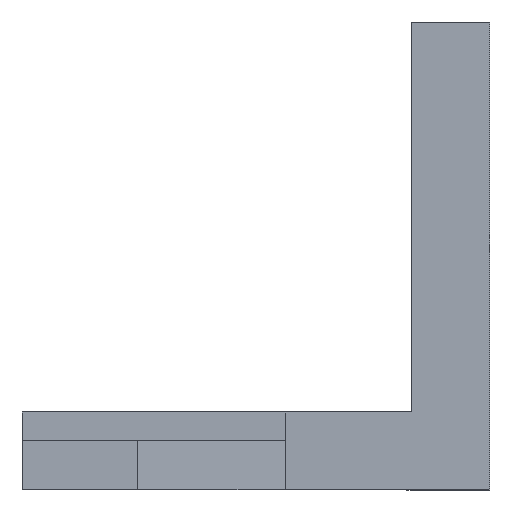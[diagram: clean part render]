
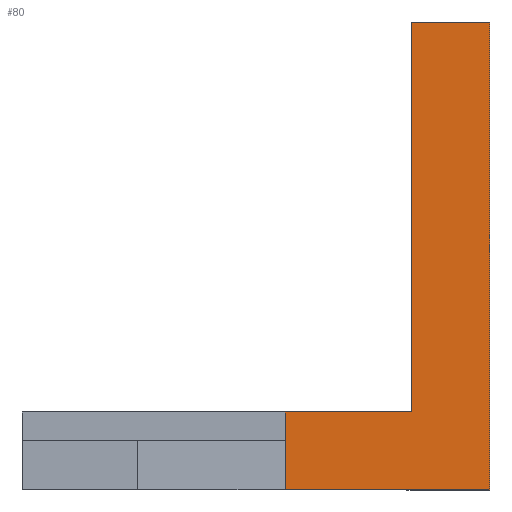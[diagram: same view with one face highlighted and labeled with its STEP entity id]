
A CAD part, front view. The second image highlights one B-rep face of the part: STEP entity #80.
In plain terms, the highlighted planar face has unit normal (0, -1, 0).
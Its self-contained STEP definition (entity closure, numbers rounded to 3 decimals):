
#80=ADVANCED_FACE('',(#109),#322,.T.);
#109=FACE_OUTER_BOUND('',#150,.F.);
#150=EDGE_LOOP('',(#244,#245,#246,#247,#248,#249,#250,#251));
#244=ORIENTED_EDGE('',*,*,#483,.F.);
#245=ORIENTED_EDGE('',*,*,#451,.T.);
#246=ORIENTED_EDGE('',*,*,#456,.T.);
#247=ORIENTED_EDGE('',*,*,#455,.T.);
#248=ORIENTED_EDGE('',*,*,#457,.T.);
#249=ORIENTED_EDGE('',*,*,#454,.T.);
#250=ORIENTED_EDGE('',*,*,#453,.T.);
#251=ORIENTED_EDGE('',*,*,#484,.T.);
#322=PLANE('',#603);
#334=LINE('',#843,#385);
#336=LINE('',#845,#387);
#337=LINE('',#846,#388);
#338=LINE('',#847,#389);
#339=LINE('',#848,#390);
#340=LINE('',#849,#391);
#364=LINE('',#875,#415);
#365=LINE('',#876,#416);
#385=VECTOR('',#659,5.164);
#387=VECTOR('',#661,5.164);
#388=VECTOR('',#662,3.175);
#389=VECTOR('',#663,3.175);
#390=VECTOR('',#664,15.875);
#391=VECTOR('',#665,19.05);
#415=VECTOR('',#693,1.175);
#416=VECTOR('',#694,2.);
#451=EDGE_CURVE('',#543,#541,#334,.T.);
#453=EDGE_CURVE('',#539,#540,#336,.T.);
#454=EDGE_CURVE('',#538,#539,#337,.T.);
#455=EDGE_CURVE('',#537,#536,#338,.T.);
#456=EDGE_CURVE('',#541,#537,#339,.T.);
#457=EDGE_CURVE('',#536,#538,#340,.T.);
#483=EDGE_CURVE('',#543,#548,#364,.T.);
#484=EDGE_CURVE('',#540,#548,#365,.T.);
#536=VERTEX_POINT('',#790);
#537=VERTEX_POINT('',#791);
#538=VERTEX_POINT('',#792);
#539=VERTEX_POINT('',#793);
#540=VERTEX_POINT('',#794);
#541=VERTEX_POINT('',#795);
#543=VERTEX_POINT('',#797);
#548=VERTEX_POINT('',#802);
#603=AXIS2_PLACEMENT_3D('',#906,#742,#743);
#659=DIRECTION('',(1.,0.,0.));
#661=DIRECTION('',(-1.,0.,0.));
#662=DIRECTION('',(-1.,0.,0.));
#663=DIRECTION('',(1.,0.,0.));
#664=DIRECTION('',(0.,0.,1.));
#665=DIRECTION('',(0.,0.,-1.));
#693=DIRECTION('',(0.,0.,-1.));
#694=DIRECTION('',(0.,0.,1.));
#742=DIRECTION('',(0.,-1.,0.));
#743=DIRECTION('',(0.,0.,-1.));
#790=CARTESIAN_POINT('',(76.425,593.225,-65.275));
#791=CARTESIAN_POINT('',(73.25,593.225,-65.275));
#792=CARTESIAN_POINT('',(76.425,593.225,-84.325));
#793=CARTESIAN_POINT('',(73.25,593.225,-84.325));
#794=CARTESIAN_POINT('',(68.086,593.225,-84.325));
#795=CARTESIAN_POINT('',(73.25,593.225,-81.15));
#797=CARTESIAN_POINT('',(68.086,593.225,-81.15));
#802=CARTESIAN_POINT('',(68.086,593.225,-82.325));
#843=CARTESIAN_POINT('',(68.086,593.225,-81.15));
#845=CARTESIAN_POINT('',(73.25,593.225,-84.325));
#846=CARTESIAN_POINT('',(76.425,593.225,-84.325));
#847=CARTESIAN_POINT('',(73.25,593.225,-65.275));
#848=CARTESIAN_POINT('',(73.25,593.225,-81.15));
#849=CARTESIAN_POINT('',(76.425,593.225,-65.275));
#875=CARTESIAN_POINT('',(68.086,593.225,-81.15));
#876=CARTESIAN_POINT('',(68.086,593.225,-84.325));
#906=CARTESIAN_POINT('',(52.27,593.225,-52.));
